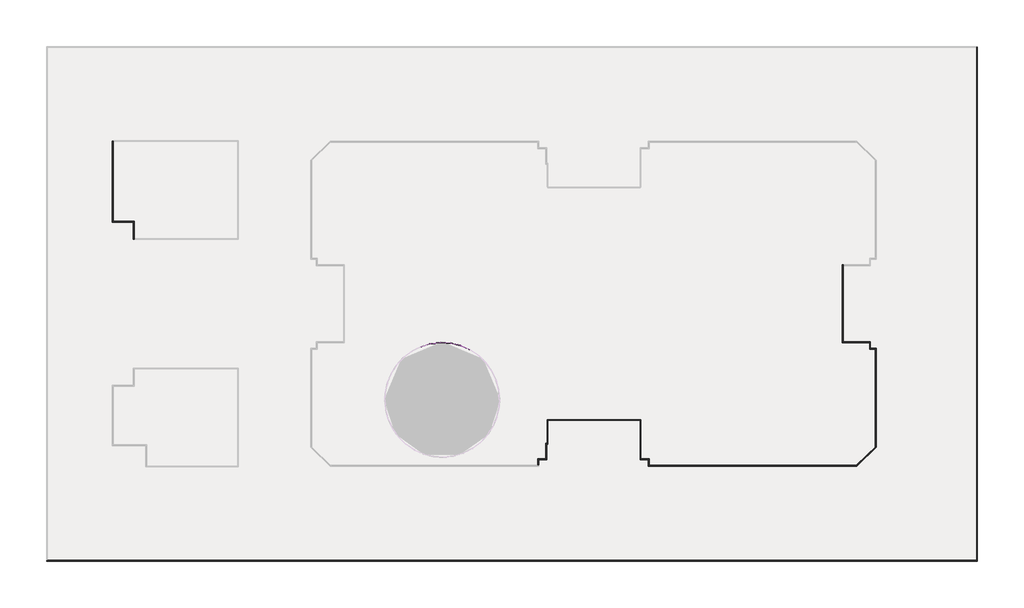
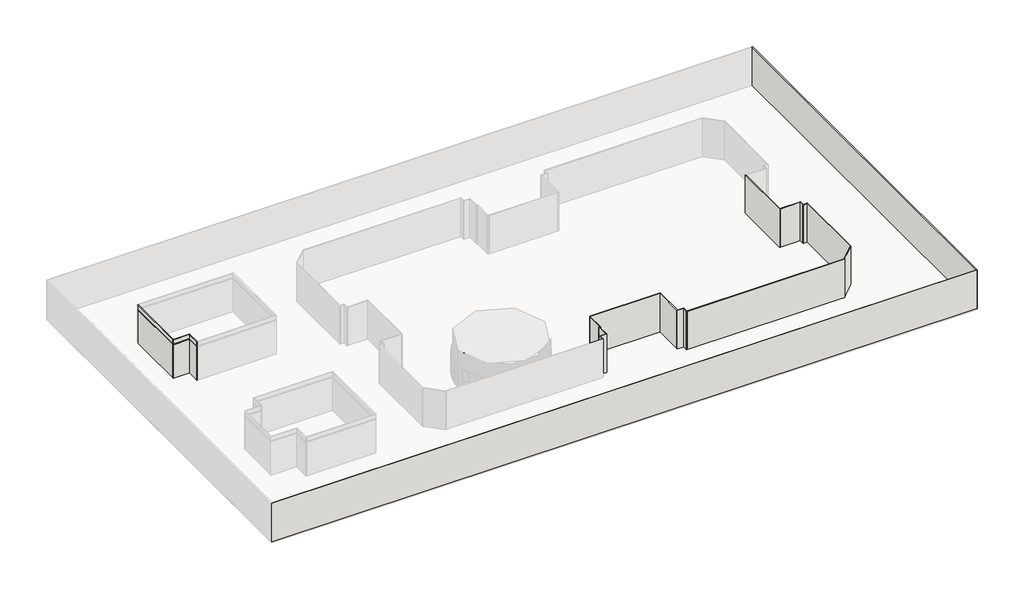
# One storey, part 3 of 4: 23 walls, 12 members, 10 plates.
"""IFC4 building model written with IfcOpenShell, lengths in millimetres."""

from ifc_helpers import new_model, si_unit, frame, origin, place, context, project, spatial, polyline, circle_curve, faceted_brep, transform, mapped, element, save
from ifc_brep_helpers import plane_surface, cylinder_surface, revolved_surface, advanced_brep
from components import member_37831322, member_0f460398, plate_01dbb522, plate_f02ba564

model = new_model("IFC4")

# Units and contexts
model_context = context("Model", 3, world=origin())
ifc_project = project(units=[si_unit("LENGTHUNIT", "METRE", prefix="MILLI")], contexts=[model_context])

# Site, building, storey
site = spatial("IfcSite", under=ifc_project)
building = spatial("IfcBuilding", under=site)
storey = spatial("IfcBuildingStorey", under=building, Name="樓層 1", Elevation=0.0)

# Members
placement = place(None, origin())
member_shape = member_37831322(model_context)
element("IfcMember", 1, ObjectType="圓形豎框 : 25mm 半徑", at=placement, inside=storey, context=model_context, shape_type="MappedRepresentation", body=[
    mapped(member_shape, transform((-8432.6527609, -7456.1153713, 2800.0), x_axis=(-0.9467588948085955, 0.3219434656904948, 0.0), y_axis=(0.3219434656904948, 0.9467588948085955, 0.0), z_axis=(0.0, 0.0, -1.0))),
])
element("IfcMember", 2, ObjectType="圓形豎框 : 25mm 半徑", at=placement, inside=storey, context=model_context, shape_type="MappedRepresentation", body=[
    mapped(member_shape, transform((-10181.4903396, -7030.0084326, 2800.0), x_axis=(-0.9887399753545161, 0.14964378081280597, 0.0), y_axis=(0.14964378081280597, 0.9887399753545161, 0.0), z_axis=(0.0, 0.0, -1.0))),
])
element("IfcMember", 3, ObjectType="圓形豎框 : 25mm 半徑", at=placement, inside=storey, context=model_context, shape_type="MappedRepresentation", body=[
    mapped(member_shape, transform((-11978.0960977, -6919.5197457, 2800.0), x_axis=(-0.9996255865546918, -0.02736213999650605, 0.0), y_axis=(-0.02736213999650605, 0.9996255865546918, 0.0), z_axis=(0.0, 0.0, -1.0))),
])
element("IfcMember", 4, ObjectType="圓形豎框 : 25mm 半徑", at=placement, inside=storey, context=model_context, shape_type="MappedRepresentation", body=[
    mapped(member_shape, transform((-13765.9675162, -7128.1241348, 2800.0), x_axis=(-0.9790733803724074, -0.20350753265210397, 0.0), y_axis=(-0.20350753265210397, 0.9790733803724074, 0.0), z_axis=(0.0, 0.0, -1.0))),
])
member_2_shape = member_0f460398(model_context)
element("IfcMember", 5, ObjectType="圓形豎框 : 25mm 半徑", at=placement, inside=storey, context=model_context, shape_type="MappedRepresentation", body=[
    mapped(member_2_shape, transform((-8409.7906891, -7466.2309866, 2800.0), x_axis=(0.0, 0.0, 1.0), y_axis=(0.40462461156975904, 0.9144828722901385, 0.0), z_axis=(-0.9144828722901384, 0.404624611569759, 0.0))),
])
element("IfcMember", 6, ObjectType="圓形豎框 : 25mm 半徑", at=placement, inside=storey, context=model_context, shape_type="MappedRepresentation", body=[
    mapped(member_2_shape, transform((-10157.2009288, -7035.9265845, 2800.0), x_axis=(0.0, 0.0, 1.0), y_axis=(0.2367260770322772, 0.9715764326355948, 0.0), z_axis=(-0.9715764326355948, 0.2367260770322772, 0.0))),
])
element("IfcMember", 7, ObjectType="圓形豎框 : 25mm 半徑", at=placement, inside=storey, context=model_context, shape_type="MappedRepresentation", body=[
    mapped(member_2_shape, transform((-11953.14324, -6921.0543108, 2800.0), x_axis=(0.0, 0.0, 1.0), y_axis=(0.06138260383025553, 0.9981143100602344, 0.0), z_axis=(-0.9981143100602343, 0.061382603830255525, 0.0))),
])
element("IfcMember", 8, ObjectType="圓形豎框 : 25mm 半徑", at=placement, inside=storey, context=model_context, shape_type="MappedRepresentation", body=[
    mapped(member_2_shape, transform((-13741.1359687, -7125.2268516, 2800.0), x_axis=(0.0, 0.0, 1.0), y_axis=(-0.11589132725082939, 0.9932618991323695, 0.0), z_axis=(-0.9932618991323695, -0.11589132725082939, 0.0))),
])
element("IfcMember", 9, ObjectType="圓形豎框 : 25mm 半徑", at=placement, inside=storey, context=model_context, shape_type="MappedRepresentation", body=[
    mapped(member_shape, transform((-8432.6527609, -7456.1153713, 0.0), x_axis=(-0.9467588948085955, 0.3219434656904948, 0.0), y_axis=(0.3219434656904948, 0.9467588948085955, 0.0), z_axis=(0.0, 0.0, -1.0))),
])
element("IfcMember", 10, ObjectType="圓形豎框 : 25mm 半徑", at=placement, inside=storey, context=model_context, shape_type="MappedRepresentation", body=[
    mapped(member_shape, transform((-10181.4903396, -7030.0084326, 0.0), x_axis=(-0.9887399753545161, 0.14964378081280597, 0.0), y_axis=(0.14964378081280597, 0.9887399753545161, 0.0), z_axis=(0.0, 0.0, -1.0))),
])
element("IfcMember", 11, ObjectType="圓形豎框 : 25mm 半徑", at=placement, inside=storey, context=model_context, shape_type="MappedRepresentation", body=[
    mapped(member_shape, transform((-11978.0960977, -6919.5197457, 0.0), x_axis=(-0.9996255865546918, -0.02736213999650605, 0.0), y_axis=(-0.02736213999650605, 0.9996255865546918, 0.0), z_axis=(0.0, 0.0, -1.0))),
])
element("IfcMember", 12, ObjectType="圓形豎框 : 25mm 半徑", at=placement, inside=storey, context=model_context, shape_type="MappedRepresentation", body=[
    mapped(member_shape, transform((-13765.9675162, -7128.1241348, 0.0), x_axis=(-0.9790733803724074, -0.20350753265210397, 0.0), y_axis=(-0.20350753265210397, 0.9790733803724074, 0.0), z_axis=(0.0, 0.0, -1.0))),
])

# Plates
plate_shape = plate_01dbb522(model_context)
element("IfcPlate", 13, ObjectType="系統嵌板 : 玻璃 1.0cm", at=placement, inside=storey, context=model_context, shape_type="MappedRepresentation", body=[
    mapped(plate_shape, transform((-7609.6181758, -7820.2775217, 0.0), x_axis=(-0.9144828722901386, 0.4046246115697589, 0.0), y_axis=(-0.4046246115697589, -0.9144828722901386, 0.0), z_axis=(0.0, 0.0, 1.0))),
])
element("IfcPlate", 14, ObjectType="系統嵌板 : 玻璃 1.0cm", at=placement, inside=storey, context=model_context, shape_type="MappedRepresentation", body=[
    mapped(plate_shape, transform((-9307.0715503, -7243.0619019, 0.0), x_axis=(-0.9715764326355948, 0.23672607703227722, 0.0), y_axis=(-0.23672607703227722, -0.9715764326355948, 0.0), z_axis=(0.0, 0.0, 1.0))),
])
element("IfcPlate", 15, ObjectType="系統嵌板 : 玻璃 1.0cm", at=placement, inside=storey, context=model_context, shape_type="MappedRepresentation", body=[
    mapped(plate_shape, transform((-11079.7932187, -6974.7640892, 0.0), x_axis=(-0.9981143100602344, 0.061382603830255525, 0.0), y_axis=(-0.061382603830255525, -0.9981143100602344, 0.0), z_axis=(0.0, 0.0, 1.0))),
])
element("IfcPlate", 16, ObjectType="系統嵌板 : 玻璃 1.0cm", at=placement, inside=storey, context=model_context, shape_type="MappedRepresentation", body=[
    mapped(plate_shape, transform((-12872.031807, -7023.8219402, 0.0), x_axis=(-0.9932618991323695, -0.11589132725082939, 0.0), y_axis=(0.11589132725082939, -0.9932618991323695, 0.0), z_axis=(0.0, 0.0, 1.0))),
])
element("IfcPlate", 17, ObjectType="系統嵌板 : 玻璃 1.0cm", at=placement, inside=storey, context=model_context, shape_type="MappedRepresentation", body=[
    mapped(plate_shape, transform((-14627.4221417, -7388.6926057, 0.0), x_axis=(-0.9571718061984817, -0.2895205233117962, 0.0), y_axis=(0.2895205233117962, -0.9571718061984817, 0.0), z_axis=(0.0, 0.0, 1.0))),
])
plate_2_shape = plate_f02ba564(model_context)
element("IfcPlate", 18, ObjectType="系統嵌板 : 玻璃 1.0cm", at=placement, inside=storey, context=model_context, shape_type="MappedRepresentation", body=[
    mapped(plate_2_shape, transform((-7609.6181758, -7820.2775217, 2825.0), x_axis=(-0.9144828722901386, 0.4046246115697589, 0.0), y_axis=(-0.4046246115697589, -0.9144828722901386, 0.0), z_axis=(0.0, 0.0, 1.0))),
])
element("IfcPlate", 19, ObjectType="系統嵌板 : 玻璃 1.0cm", at=placement, inside=storey, context=model_context, shape_type="MappedRepresentation", body=[
    mapped(plate_2_shape, transform((-9307.0715503, -7243.0619019, 2825.0), x_axis=(-0.9715764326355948, 0.23672607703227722, 0.0), y_axis=(-0.23672607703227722, -0.9715764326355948, 0.0), z_axis=(0.0, 0.0, 1.0))),
])
element("IfcPlate", 20, ObjectType="系統嵌板 : 玻璃 1.0cm", at=placement, inside=storey, context=model_context, shape_type="MappedRepresentation", body=[
    mapped(plate_2_shape, transform((-11079.7932187, -6974.7640892, 2825.0), x_axis=(-0.9981143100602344, 0.061382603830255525, 0.0), y_axis=(-0.061382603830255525, -0.9981143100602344, 0.0), z_axis=(0.0, 0.0, 1.0))),
])
element("IfcPlate", 21, ObjectType="系統嵌板 : 玻璃 1.0cm", at=placement, inside=storey, context=model_context, shape_type="MappedRepresentation", body=[
    mapped(plate_2_shape, transform((-12872.031807, -7023.8219402, 2825.0), x_axis=(-0.9932618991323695, -0.11589132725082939, 0.0), y_axis=(0.11589132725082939, -0.9932618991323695, 0.0), z_axis=(0.0, 0.0, 1.0))),
])
element("IfcPlate", 22, ObjectType="系統嵌板 : 玻璃 1.0cm", at=placement, inside=storey, context=model_context, shape_type="MappedRepresentation", body=[
    mapped(plate_2_shape, transform((-14627.4221417, -7388.6926057, 2825.0), x_axis=(-0.9571718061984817, -0.2895205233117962, 0.0), y_axis=(0.2895205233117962, -0.9571718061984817, 0.0), z_axis=(0.0, 0.0, 1.0))),
])

# Walls
element("IfcWall", 23, ObjectType="RC 牆 15cm", at=placement, inside=storey, context=model_context, shape_type="Brep", body=[
    faceted_brep([(82913.7769574, 45327.9067124, 0.0), (82913.7769574, -45467.0932876, 0.0), (82913.7769574, -45617.0932876, 0.0), (82913.7769574, -45617.0932876, 9500.0), (82913.7769574, -45467.0932876, 9500.0), (82913.7769574, 45327.9067124, 9500.0), (82913.7769574, 45327.9067124, 8500.0), (82913.7769574, 45327.9067124, 8250.0), (82913.7769574, 45327.9067124, 4500.0), (82913.7769574, 45327.9067124, 4250.0), (83063.7769574, 45327.9067124, 0.0), (83063.7769574, 45327.9067124, 9500.0), (83063.7769574, -45617.0932876, 9500.0), (83063.7769574, -45617.0932876, 0.0)], [[[0, 1, 2, 3, 4, 5, 6, 7, 8, 9]], [[10, 11, 12, 13]], [[2, 1, 0, 10, 13]], [[5, 4, 3, 12, 11]], [[0, 9, 8, 7, 6, 5, 11, 10]], [[3, 2, 13, 12]]]),
])
element("IfcWall", 24, ObjectType="RC 牆 15cm", at=placement, inside=storey, context=model_context, shape_type="Brep", body=[
    faceted_brep([(82913.7769574, -45467.0932876, 0.0), (-81591.2230426, -45467.0932876, 0.0), (-81741.2230426, -45467.0932876, 0.0), (-81741.2230426, -45467.0932876, 9500.0), (-81591.2230426, -45467.0932876, 9500.0), (82913.7769574, -45467.0932876, 9500.0), (82913.7769574, -45467.0932876, 8500.0), (82913.7769574, -45467.0932876, 8250.0), (82913.7769574, -45467.0932876, 4500.0), (82913.7769574, -45467.0932876, 4250.0), (82913.7769574, -45617.0932876, 0.0), (82913.7769574, -45617.0932876, 9500.0), (-81741.2230426, -45617.0932876, 9500.0), (-81741.2230426, -45617.0932876, 0.0)], [[[0, 1, 2, 3, 4, 5, 6, 7, 8, 9]], [[10, 11, 12, 13]], [[2, 1, 0, 10, 13]], [[5, 4, 3, 12, 11]], [[0, 9, 8, 7, 6, 5, 11, 10]], [[3, 2, 13, 12]]]),
])
element("IfcWall", 25, ObjectType="RC 牆 15cm", at=placement, inside=storey, context=model_context, shape_type="Brep", body=[
    faceted_brep([(-70116.2230426, 14379.9067124, 0.0), (-66356.2230426, 14379.9067124, 0.0), (-66206.2230426, 14379.9067124, 0.0), (-66206.2230426, 14379.9067124, 8250.0), (-66356.2230426, 14379.9067124, 8250.0), (-70116.2230426, 14379.9067124, 8250.0), (-70116.2230426, 14379.9067124, 4500.0), (-70116.2230426, 14379.9067124, 4250.0), (-66206.2230426, 14529.9067124, 0.0), (-69966.2230426, 14529.9067124, 0.0), (-70116.2230426, 14529.9067124, 0.0), (-70116.2230426, 14529.9067124, 4250.0), (-70116.2230426, 14529.9067124, 4500.0), (-70116.2230426, 14529.9067124, 8250.0), (-69966.2230426, 14529.9067124, 8250.0), (-66206.2230426, 14529.9067124, 8250.0)], [[[0, 1, 2, 3, 4, 5, 6, 7]], [[8, 9, 10, 11, 12, 13, 14, 15]], [[2, 1, 0, 10, 9, 8]], [[2, 8, 15, 3]], [[10, 0, 7, 6, 5, 13, 12, 11]], [[5, 4, 3, 15, 14, 13]]]),
    faceted_brep([(-66206.2230426, 14379.9067124, 9500.0), (-66356.2230426, 14379.9067124, 9500.0), (-70116.2230426, 14379.9067124, 9500.0), (-70116.2230426, 14379.9067124, 8500.0), (-66356.2230426, 14379.9067124, 8500.0), (-66206.2230426, 14379.9067124, 8500.0), (-70116.2230426, 14529.9067124, 9500.0), (-69966.2230426, 14529.9067124, 9500.0), (-66206.2230426, 14529.9067124, 9500.0), (-66206.2230426, 14529.9067124, 8500.0), (-69966.2230426, 14529.9067124, 8500.0), (-70116.2230426, 14529.9067124, 8500.0)], [[[0, 1, 2, 3, 4, 5]], [[6, 7, 8, 9, 10, 11]], [[2, 1, 0, 8, 7, 6]], [[8, 0, 5, 9]], [[2, 6, 11, 3]], [[5, 4, 3, 11, 10, 9]]]),
])
element("IfcWall", 26, ObjectType="RC 牆 15cm", at=placement, inside=storey, context=model_context, shape_type="Brep", body=[
    faceted_brep([(-66356.2230426, 14379.9067124, 0.0), (-66356.2230426, 11337.3962872, 0.0), (-66356.2230426, 11337.3962872, 4250.0), (-66356.2230426, 11337.3962872, 4500.0), (-66356.2230426, 11337.3962872, 8250.0), (-66356.2230426, 14379.9067124, 8250.0), (-66356.2230426, 14379.9067124, 4500.0), (-66356.2230426, 14379.9067124, 4250.0), (-66206.2230426, 11337.3962872, 0.0), (-66206.2230426, 11487.3962872, 0.0), (-66206.2230426, 14379.9067124, 0.0), (-66206.2230426, 14379.9067124, 8250.0), (-66206.2230426, 11487.3962872, 8250.0), (-66206.2230426, 11337.3962872, 8250.0), (-66206.2230426, 11337.3962872, 4500.0), (-66206.2230426, 11337.3962872, 4250.0)], [[[0, 1, 2, 3, 4, 5, 6, 7]], [[8, 9, 10, 11, 12, 13, 14, 15]], [[1, 0, 10, 9, 8]], [[10, 0, 7, 6, 5, 11]], [[1, 8, 15, 14, 13, 4, 3, 2]], [[5, 4, 13, 12, 11]]]),
    faceted_brep([(-66356.2230426, 11337.3962872, 9500.0), (-66356.2230426, 14379.9067124, 9500.0), (-66356.2230426, 14379.9067124, 8500.0), (-66356.2230426, 11337.3962872, 8500.0), (-66206.2230426, 14379.9067124, 9500.0), (-66206.2230426, 11487.3962872, 9500.0), (-66206.2230426, 11337.3962872, 9500.0), (-66206.2230426, 11337.3962872, 8500.0), (-66206.2230426, 11487.3962872, 8500.0), (-66206.2230426, 14379.9067124, 8500.0)], [[[0, 1, 2, 3]], [[4, 5, 6, 7, 8, 9]], [[1, 0, 6, 5, 4]], [[1, 4, 9, 2]], [[6, 0, 3, 7]], [[3, 2, 9, 8, 7]]]),
])
element("IfcWall", 27, ObjectType="RC 牆 15cm", at=placement, inside=storey, context=model_context, shape_type="Brep", body=[
    faceted_brep([(-70116.2230426, 28677.9067124, 0.0), (-70116.2230426, 14529.9067124, 0.0), (-70116.2230426, 14529.9067124, 4250.0), (-70116.2230426, 14529.9067124, 4500.0), (-70116.2230426, 14529.9067124, 8250.0), (-70116.2230426, 28677.9067124, 8250.0), (-70116.2230426, 28677.9067124, 4500.0), (-70116.2230426, 28677.9067124, 4250.0), (-69966.2230426, 14529.9067124, 0.0), (-69966.2230426, 28677.9067124, 0.0), (-69966.2230426, 28677.9067124, 8250.0), (-69966.2230426, 14529.9067124, 8250.0)], [[[0, 1, 2, 3, 4, 5, 6, 7]], [[8, 9, 10, 11]], [[1, 0, 9, 8]], [[1, 8, 11, 4, 3, 2]], [[9, 0, 7, 6, 5, 10]], [[5, 4, 11, 10]]]),
    faceted_brep([(-70116.2230426, 14529.9067124, 9500.0), (-70116.2230426, 28677.9067124, 9500.0), (-70116.2230426, 28677.9067124, 8500.0), (-70116.2230426, 14529.9067124, 8500.0), (-69966.2230426, 28677.9067124, 9500.0), (-69966.2230426, 14529.9067124, 9500.0), (-69966.2230426, 14529.9067124, 8500.0), (-69966.2230426, 28677.9067124, 8500.0)], [[[0, 1, 2, 3]], [[4, 5, 6, 7]], [[1, 0, 5, 4]], [[5, 0, 3, 6]], [[1, 4, 7, 2]], [[3, 2, 7, 6]]]),
])
element("IfcWall", 28, ObjectType="RC 牆 15cm", at=placement, inside=storey, context=model_context, shape_type="Brep", body=[
    faceted_brep([(5373.7769574, -28687.0932876, 0.0), (5373.7769574, -27684.5932876, 0.0), (5373.7769574, -27534.5932876, 0.0), (5373.7769574, -27534.5932876, 9500.0), (5373.7769574, -27684.5932876, 9500.0), (5373.7769574, -28687.0932876, 9500.0), (5373.7769574, -28687.0932876, 8500.0), (5373.7769574, -28687.0932876, 8250.0), (5373.7769574, -28687.0932876, 4500.0), (5373.7769574, -28687.0932876, 4250.0), (5223.7769574, -27534.5932876, 0.0), (5223.7769574, -28687.0932876, 0.0), (5223.7769574, -28687.0932876, 9500.0), (5223.7769574, -27534.5932876, 9500.0)], [[[0, 1, 2, 3, 4, 5, 6, 7, 8, 9]], [[10, 11, 12, 13]], [[2, 1, 0, 11, 10]], [[5, 4, 3, 13, 12]], [[5, 12, 11, 0, 9, 8, 7, 6]], [[3, 2, 10, 13]]]),
])
element("IfcWall", 29, ObjectType="RC 牆 15cm", at=placement, inside=storey, context=model_context, shape_type="Brep", body=[
    faceted_brep([(5373.7769574, -27684.5932876, 0.0), (6813.7769574, -27684.5932876, 0.0), (6813.7769574, -27684.5932876, 4250.0), (6813.7769574, -27684.5932876, 4500.0), (6813.7769574, -27684.5932876, 8250.0), (6813.7769574, -27684.5932876, 8500.0), (6813.7769574, -27684.5932876, 9500.0), (5373.7769574, -27684.5932876, 9500.0), (5373.7769574, -27684.5932876, 8500.0), (5373.7769574, -27684.5932876, 8250.0), (5373.7769574, -27684.5932876, 4500.0), (5373.7769574, -27684.5932876, 4250.0), (6813.7769574, -27534.5932876, 0.0), (6663.7769574, -27534.5932876, 0.0), (5373.7769574, -27534.5932876, 0.0), (5373.7769574, -27534.5932876, 9500.0), (6663.7769574, -27534.5932876, 9500.0), (6813.7769574, -27534.5932876, 9500.0), (6813.7769574, -27534.5932876, 8500.0), (6813.7769574, -27534.5932876, 8250.0), (6813.7769574, -27534.5932876, 4500.0), (6813.7769574, -27534.5932876, 4250.0)], [[[0, 1, 2, 3, 4, 5, 6, 7, 8, 9, 10, 11]], [[12, 13, 14, 15, 16, 17, 18, 19, 20, 21]], [[1, 0, 14, 13, 12]], [[7, 6, 17, 16, 15]], [[7, 15, 14, 0, 11, 10, 9, 8]], [[1, 12, 21, 20, 19, 18, 17, 6, 5, 4, 3, 2]]]),
])
element("IfcWall", 30, ObjectType="RC 牆 15cm", at=placement, inside=storey, context=model_context, shape_type="Brep", body=[
    faceted_brep([(7013.7769574, -24782.0932876, 0.0), (7013.7769574, -20752.0932876, 0.0), (7013.7769574, -20752.0932876, 4250.0), (7013.7769574, -20752.0932876, 4500.0), (7013.7769574, -20752.0932876, 8250.0), (7013.7769574, -20752.0932876, 8500.0), (7013.7769574, -20752.0932876, 9500.0), (7013.7769574, -24782.0932876, 9500.0), (7013.7769574, -24782.0932876, 8500.0), (7013.7769574, -24782.0932876, 8250.0), (7013.7769574, -24782.0932876, 4500.0), (7013.7769574, -24782.0932876, 4250.0), (6863.7769574, -20752.0932876, 0.0), (6863.7769574, -24782.0932876, 0.0), (6863.7769574, -24782.0932876, 9500.0), (6863.7769574, -20752.0932876, 9500.0)], [[[0, 1, 2, 3, 4, 5, 6, 7, 8, 9, 10, 11]], [[12, 13, 14, 15]], [[1, 0, 13, 12]], [[12, 15, 6, 5, 4, 3, 2, 1]], [[7, 6, 15, 14]], [[7, 14, 13, 0, 11, 10, 9, 8]]]),
])
element("IfcWall", 31, ObjectType="RC 牆 15cm", at=placement, inside=storey, context=model_context, shape_type="Brep", body=[
    faceted_brep([(7063.7769574, -20702.0932876, 0.0), (23283.7769574, -20702.0932876, 0.0), (23283.7769574, -20702.0932876, 4250.0), (23283.7769574, -20702.0932876, 4500.0), (23283.7769574, -20702.0932876, 8250.0), (23283.7769574, -20702.0932876, 8500.0), (23283.7769574, -20702.0932876, 9500.0), (7063.7769574, -20702.0932876, 9500.0), (7063.7769574, -20702.0932876, 8500.0), (7063.7769574, -20702.0932876, 8250.0), (7063.7769574, -20702.0932876, 4500.0), (7063.7769574, -20702.0932876, 4250.0), (23283.7769574, -20552.0932876, 0.0), (7063.7769574, -20552.0932876, 0.0), (7063.7769574, -20552.0932876, 9500.0), (23283.7769574, -20552.0932876, 9500.0)], [[[0, 1, 2, 3, 4, 5, 6, 7, 8, 9, 10, 11]], [[12, 13, 14, 15]], [[1, 0, 13, 12]], [[12, 15, 6, 5, 4, 3, 2, 1]], [[7, 6, 15, 14]], [[14, 13, 0, 11, 10, 9, 8, 7]]]),
])
element("IfcWall", 32, ObjectType="RC 牆 15cm", at=placement, inside=storey, context=model_context, shape_type="AdvancedBrep", body=[
    advanced_brep(
    [(7063.7769574, -20552.0932876, 9500.0), (6863.7769574, -20752.0932876, 9500.0), (7013.7769574, -20752.0932876, 9500.0), (7063.7769574, -20702.0932876, 9500.0), (6863.7769574, -20752.0932876, 0.0), (7063.7769574, -20552.0932876, 0.0), (7063.7769574, -20702.0932876, 0.0), (7013.7769574, -20752.0932876, 0.0), (7013.7769574, -20752.0932876, 4250.0), (7013.7769574, -20752.0932876, 4500.0), (7013.7769574, -20752.0932876, 8250.0), (7013.7769574, -20752.0932876, 8500.0), (7063.7769574, -20702.0932876, 4250.0), (7063.7769574, -20702.0932876, 4500.0), (7063.7769574, -20702.0932876, 8250.0), (7063.7769574, -20702.0932876, 8500.0)],
    [
        (0, 1, circle_curve(frame((7063.7769574, -20752.0932876, 9500.0), z_axis=(0.0, 0.0, 1.0), x_axis=(1.0, 0.0, 0.0)), 200.0)),
        (1, 2),
        (2, 3, circle_curve(frame((7063.7769574, -20752.0932876, 9500.0), z_axis=(0.0, 0.0, -1.0), x_axis=(1.0, 0.0, 0.0)), 50.0)),
        (3, 0),
        (4, 5, circle_curve(frame((7063.7769574, -20752.0932876, 0.0), z_axis=(0.0, 0.0, -1.0), x_axis=(1.0, 0.0, 0.0)), 200.0)),
        (5, 6),
        (6, 7, circle_curve(frame((7063.7769574, -20752.0932876, 0.0), z_axis=(0.0, 0.0, 1.0), x_axis=(1.0, 0.0, 0.0)), 50.0)),
        (7, 4),
        (0, 5),
        (4, 1),
        (7, 8),
        (8, 9),
        (9, 10),
        (10, 11),
        (11, 2),
        (6, 12),
        (12, 13),
        (13, 14),
        (14, 15),
        (15, 3),
    ],
    [
        plane_surface(frame((7263.7769574, -20752.0932876, 9500.0), z_axis=(0.0, 0.0, 1.0), x_axis=(0.0, 1.0, 0.0))),
        plane_surface(frame((7263.7769574, -20752.0932876, 0.0), z_axis=(0.0, 0.0, -1.0), x_axis=(0.0, -1.0, 0.0))),
        cylinder_surface(frame((7063.7769574, -20752.0932876, 0.0), z_axis=(0.0, 0.0, 1.0), x_axis=(1.0, 0.0, 0.0)), 200.0),
        plane_surface(frame((6863.7769574, -20752.0932876, 9500.0), z_axis=(0.0, -1.0, 0.0), x_axis=(0.0, 0.0, -1.0))),
        revolved_surface(polyline([(7113.7769574, -20752.0932876, 0.0), (7113.7769574, -20752.0932876, 9500.0)]), (7063.7769574, -20752.0932876, 0.0), (0.0, 0.0, -1.0)),
        plane_surface(frame((7063.7769574, -20702.0932876, 9500.0), z_axis=(1.0, 0.0, 0.0), x_axis=(0.0, 0.0, -1.0))),
    ],
    [
        (0, [[1, 2, 3, 4]]),
        (1, [[5, 6, 7, 8]]),
        (2, [[-1, 9, -5, 10]]),
        (3, [[-2, -10, -8, 11, 12, 13, 14, 15]]),
        (4, [[-3, -15, -14, -13, -12, -11, -7, 16, 17, 18, 19, 20]]),
        (5, [[-4, -20, -19, -18, -17, -16, -6, -9]]),
    ],
),
])
element("IfcWall", 33, ObjectType="RC 牆 15cm", at=placement, inside=storey, context=model_context, shape_type="AdvancedBrep", body=[
    advanced_brep(
    [(23483.7769574, -20752.0932876, 9500.0), (23283.7769574, -20552.0932876, 9500.0), (23283.7769574, -20702.0932876, 9500.0), (23333.7769574, -20752.0932876, 9500.0), (23283.7769574, -20552.0932876, 0.0), (23483.7769574, -20752.0932876, 0.0), (23333.7769574, -20752.0932876, 0.0), (23283.7769574, -20702.0932876, 0.0), (23283.7769574, -20702.0932876, 4250.0), (23283.7769574, -20702.0932876, 4500.0), (23283.7769574, -20702.0932876, 8250.0), (23283.7769574, -20702.0932876, 8500.0), (23333.7769574, -20752.0932876, 4250.0), (23333.7769574, -20752.0932876, 4500.0), (23333.7769574, -20752.0932876, 8250.0), (23333.7769574, -20752.0932876, 8500.0)],
    [
        (0, 1, circle_curve(frame((23283.7769574, -20752.0932876, 9500.0), z_axis=(0.0, 0.0, 1.0), x_axis=(1.0, 0.0, 0.0)), 200.0)),
        (1, 2),
        (2, 3, circle_curve(frame((23283.7769574, -20752.0932876, 9500.0), z_axis=(0.0, 0.0, -1.0), x_axis=(1.0, 0.0, 0.0)), 50.0)),
        (3, 0),
        (4, 5, circle_curve(frame((23283.7769574, -20752.0932876, 0.0), z_axis=(0.0, 0.0, -1.0), x_axis=(1.0, 0.0, 0.0)), 200.0)),
        (5, 6),
        (6, 7, circle_curve(frame((23283.7769574, -20752.0932876, 0.0), z_axis=(0.0, 0.0, 1.0), x_axis=(1.0, 0.0, 0.0)), 50.0)),
        (7, 4),
        (0, 5),
        (4, 1),
        (7, 8),
        (8, 9),
        (9, 10),
        (10, 11),
        (11, 2),
        (6, 12),
        (12, 13),
        (13, 14),
        (14, 15),
        (15, 3),
    ],
    [
        plane_surface(frame((23483.7769574, -20752.0932876, 9500.0), z_axis=(0.0, 0.0, 1.0), x_axis=(0.0, 1.0, 0.0))),
        plane_surface(frame((23483.7769574, -20752.0932876, 0.0), z_axis=(0.0, 0.0, -1.0), x_axis=(0.0, -1.0, 0.0))),
        cylinder_surface(frame((23283.7769574, -20752.0932876, 0.0), z_axis=(0.0, 0.0, 1.0), x_axis=(1.0, 0.0, 0.0)), 200.0),
        plane_surface(frame((23283.7769574, -20552.0932876, 9500.0), z_axis=(-1.0, 0.0, 0.0), x_axis=(0.0, 0.0, -1.0))),
        revolved_surface(polyline([(23333.7769574, -20752.0932876, 0.0), (23333.7769574, -20752.0932876, 9500.0)]), (23283.7769574, -20752.0932876, 0.0), (0.0, 0.0, -1.0)),
        plane_surface(frame((23333.7769574, -20752.0932876, 9500.0), z_axis=(0.0, -1.0, 0.0), x_axis=(0.0, 0.0, -1.0))),
    ],
    [
        (0, [[1, 2, 3, 4]]),
        (1, [[5, 6, 7, 8]]),
        (2, [[-1, 9, -5, 10]]),
        (3, [[-2, -10, -8, 11, 12, 13, 14, 15]]),
        (4, [[-3, -15, -14, -13, -12, -11, -7, 16, 17, 18, 19, 20]]),
        (5, [[-4, -20, -19, -18, -17, -16, -6, -9]]),
    ],
),
])
element("IfcWall", 34, ObjectType="RC 牆 15cm", at=placement, inside=storey, context=model_context, shape_type="Brep", body=[
    faceted_brep([(23333.7769574, -20752.0932876, 0.0), (23333.7769574, -27534.5932876, 0.0), (23333.7769574, -27534.5932876, 4250.0), (23333.7769574, -27534.5932876, 4500.0), (23333.7769574, -27534.5932876, 8250.0), (23333.7769574, -27534.5932876, 8500.0), (23333.7769574, -27534.5932876, 9500.0), (23333.7769574, -20752.0932876, 9500.0), (23333.7769574, -20752.0932876, 8500.0), (23333.7769574, -20752.0932876, 8250.0), (23333.7769574, -20752.0932876, 4500.0), (23333.7769574, -20752.0932876, 4250.0), (23483.7769574, -27534.5932876, 0.0), (23483.7769574, -20752.0932876, 0.0), (23483.7769574, -20752.0932876, 9500.0), (23483.7769574, -27534.5932876, 9500.0)], [[[0, 1, 2, 3, 4, 5, 6, 7, 8, 9, 10, 11]], [[12, 13, 14, 15]], [[1, 0, 13, 12]], [[7, 6, 15, 14]], [[14, 13, 0, 11, 10, 9, 8, 7]], [[1, 12, 15, 6, 5, 4, 3, 2]]]),
])
element("IfcWall", 35, ObjectType="RC 牆 15cm", at=placement, inside=storey, context=model_context, shape_type="Brep", body=[
    faceted_brep([(23333.7769574, -27684.5932876, 0.0), (24773.7769574, -27684.5932876, 0.0), (24923.7769574, -27684.5932876, 0.0), (24923.7769574, -27684.5932876, 9500.0), (24773.7769574, -27684.5932876, 9500.0), (23333.7769574, -27684.5932876, 9500.0), (23333.7769574, -27684.5932876, 8500.0), (23333.7769574, -27684.5932876, 8250.0), (23333.7769574, -27684.5932876, 4500.0), (23333.7769574, -27684.5932876, 4250.0), (24923.7769574, -27534.5932876, 0.0), (23483.7769574, -27534.5932876, 0.0), (23333.7769574, -27534.5932876, 0.0), (23333.7769574, -27534.5932876, 4250.0), (23333.7769574, -27534.5932876, 4500.0), (23333.7769574, -27534.5932876, 8250.0), (23333.7769574, -27534.5932876, 8500.0), (23333.7769574, -27534.5932876, 9500.0), (23483.7769574, -27534.5932876, 9500.0), (24923.7769574, -27534.5932876, 9500.0)], [[[0, 1, 2, 3, 4, 5, 6, 7, 8, 9]], [[10, 11, 12, 13, 14, 15, 16, 17, 18, 19]], [[2, 1, 0, 12, 11, 10]], [[5, 4, 3, 19, 18, 17]], [[3, 2, 10, 19]], [[5, 17, 16, 15, 14, 13, 12, 0, 9, 8, 7, 6]]]),
])
element("IfcWall", 36, ObjectType="RC 牆 15cm", at=placement, inside=storey, context=model_context, shape_type="Brep", body=[
    faceted_brep([(24773.7769574, -27684.5932876, 0.0), (24773.7769574, -28837.0932876, 0.0), (24773.7769574, -28837.0932876, 4250.0), (24773.7769574, -28837.0932876, 4500.0), (24773.7769574, -28837.0932876, 8250.0), (24773.7769574, -28837.0932876, 8500.0), (24773.7769574, -28837.0932876, 9500.0), (24773.7769574, -27684.5932876, 9500.0), (24773.7769574, -27684.5932876, 8500.0), (24773.7769574, -27684.5932876, 8250.0), (24773.7769574, -27684.5932876, 4500.0), (24773.7769574, -27684.5932876, 4250.0), (24923.7769574, -28837.0932876, 0.0), (24923.7769574, -28687.0932876, 0.0), (24923.7769574, -27684.5932876, 0.0), (24923.7769574, -27684.5932876, 9500.0), (24923.7769574, -28687.0932876, 9500.0), (24923.7769574, -28837.0932876, 9500.0), (24923.7769574, -28837.0932876, 8500.0), (24923.7769574, -28837.0932876, 8250.0), (24923.7769574, -28837.0932876, 4500.0), (24923.7769574, -28837.0932876, 4250.0)], [[[0, 1, 2, 3, 4, 5, 6, 7, 8, 9, 10, 11]], [[12, 13, 14, 15, 16, 17, 18, 19, 20, 21]], [[1, 0, 14, 13, 12]], [[7, 6, 17, 16, 15]], [[7, 15, 14, 0, 11, 10, 9, 8]], [[1, 12, 21, 20, 19, 18, 17, 6, 5, 4, 3, 2]]]),
])
element("IfcWall", 37, ObjectType="RC 牆 15cm", at=placement, inside=storey, context=model_context, shape_type="Brep", body=[
    faceted_brep([(24923.7769574, -28837.0932876, 0.0), (61705.1068576, -28837.0932876, 0.0), (61705.1068576, -28837.0932876, 4250.0), (61705.1068576, -28837.0932876, 4500.0), (61705.1068576, -28837.0932876, 8250.0), (61705.1068576, -28837.0932876, 8500.0), (61705.1068576, -28837.0932876, 9500.0), (24923.7769574, -28837.0932876, 9500.0), (24923.7769574, -28837.0932876, 8500.0), (24923.7769574, -28837.0932876, 8250.0), (24923.7769574, -28837.0932876, 4500.0), (24923.7769574, -28837.0932876, 4250.0), (61857.8760884, -28687.0932876, 0.0), (61643.7769574, -28687.0932876, 0.0), (24923.7769574, -28687.0932876, 0.0), (24923.7769574, -28687.0932876, 9500.0), (61643.7769574, -28687.0932876, 9500.0), (61857.8760884, -28687.0932876, 9500.0), (61857.8760884, -28687.0932876, 8500.0), (61857.8760884, -28687.0932876, 8250.0), (61857.8760884, -28687.0932876, 4500.0), (61857.8760884, -28687.0932876, 4250.0)], [[[0, 1, 2, 3, 4, 5, 6, 7, 8, 9, 10, 11]], [[12, 13, 14, 15, 16, 17, 18, 19, 20, 21]], [[1, 0, 14, 13, 12]], [[7, 6, 17, 16, 15]], [[7, 15, 14, 0, 11, 10, 9, 8]], [[1, 12, 21, 20, 19, 18, 17, 6, 5, 4, 3, 2]]]),
])
element("IfcWall", 38, ObjectType="RC 牆 15cm", at=placement, inside=storey, context=model_context, shape_type="Brep", body=[
    faceted_brep([(61857.8760884, -28687.0932876, 0.0), (65103.7769574, -25500.0305008, 0.0), (65103.7769574, -25500.0305008, 4250.0), (65103.7769574, -25500.0305008, 4500.0), (65103.7769574, -25500.0305008, 8250.0), (65103.7769574, -25500.0305008, 8500.0), (65103.7769574, -25500.0305008, 9500.0), (61857.8760884, -28687.0932876, 9500.0), (61857.8760884, -28687.0932876, 8500.0), (61857.8760884, -28687.0932876, 8250.0), (61857.8760884, -28687.0932876, 4500.0), (61857.8760884, -28687.0932876, 4250.0), (65103.7769574, -25289.8123209, 0.0), (64953.7769574, -25437.0932876, 0.0), (61643.7769574, -28687.0932876, 0.0), (61643.7769574, -28687.0932876, 9500.0), (64953.7769574, -25437.0932876, 9500.0), (65103.7769574, -25289.8123209, 9500.0), (65103.7769574, -25289.8123209, 8500.0), (65103.7769574, -25289.8123209, 8250.0), (65103.7769574, -25289.8123209, 4500.0), (65103.7769574, -25289.8123209, 4250.0)], [[[0, 1, 2, 3, 4, 5, 6, 7, 8, 9, 10, 11]], [[12, 13, 14, 15, 16, 17, 18, 19, 20, 21]], [[1, 0, 14, 13, 12]], [[7, 6, 17, 16, 15]], [[7, 15, 14, 0, 11, 10, 9, 8]], [[1, 12, 21, 20, 19, 18, 17, 6, 5, 4, 3, 2]]]),
])
element("IfcWall", 39, ObjectType="RC 牆 15cm", at=placement, inside=storey, context=model_context, shape_type="Brep", body=[
    faceted_brep([(65103.7769574, -25289.8123209, 0.0), (65103.7769574, -7967.0932876, 0.0), (65103.7769574, -7967.0932876, 4250.0), (65103.7769574, -7967.0932876, 4500.0), (65103.7769574, -7967.0932876, 8250.0), (65103.7769574, -7967.0932876, 8500.0), (65103.7769574, -7967.0932876, 9500.0), (65103.7769574, -25289.8123209, 9500.0), (65103.7769574, -25289.8123209, 8500.0), (65103.7769574, -25289.8123209, 8250.0), (65103.7769574, -25289.8123209, 4500.0), (65103.7769574, -25289.8123209, 4250.0), (64953.7769574, -7967.0932876, 0.0), (64953.7769574, -8117.0932876, 0.0), (64953.7769574, -25437.0932876, 0.0), (64953.7769574, -25437.0932876, 9500.0), (64953.7769574, -8117.0932876, 9500.0), (64953.7769574, -7967.0932876, 9500.0), (64953.7769574, -7967.0932876, 8500.0), (64953.7769574, -7967.0932876, 8250.0), (64953.7769574, -7967.0932876, 4500.0), (64953.7769574, -7967.0932876, 4250.0)], [[[0, 1, 2, 3, 4, 5, 6, 7, 8, 9, 10, 11]], [[12, 13, 14, 15, 16, 17, 18, 19, 20, 21]], [[1, 0, 14, 13, 12]], [[7, 6, 17, 16, 15]], [[7, 15, 14, 0, 11, 10, 9, 8]], [[1, 12, 21, 20, 19, 18, 17, 6, 5, 4, 3, 2]]]),
])
element("IfcWall", 40, ObjectType="RC 牆 15cm", at=placement, inside=storey, context=model_context, shape_type="Brep", body=[
    faceted_brep([(64953.7769574, -7967.0932876, 0.0), (64123.7769574, -7967.0932876, 0.0), (63973.7769574, -7967.0932876, 0.0), (63973.7769574, -7967.0932876, 9500.0), (64123.7769574, -7967.0932876, 9500.0), (64953.7769574, -7967.0932876, 9500.0), (64953.7769574, -7967.0932876, 8500.0), (64953.7769574, -7967.0932876, 8250.0), (64953.7769574, -7967.0932876, 4500.0), (64953.7769574, -7967.0932876, 4250.0), (63973.7769574, -8117.0932876, 0.0), (64953.7769574, -8117.0932876, 0.0), (64953.7769574, -8117.0932876, 9500.0), (63973.7769574, -8117.0932876, 9500.0)], [[[0, 1, 2, 3, 4, 5, 6, 7, 8, 9]], [[10, 11, 12, 13]], [[2, 1, 0, 11, 10]], [[5, 4, 3, 13, 12]], [[5, 12, 11, 0, 9, 8, 7, 6]], [[3, 2, 10, 13]]]),
])
element("IfcWall", 41, ObjectType="RC 牆 15cm", at=placement, inside=storey, context=model_context, shape_type="Brep", body=[
    faceted_brep([(64123.7769574, -7967.0932876, 0.0), (64123.7769574, -6827.0932876, 0.0), (64123.7769574, -6827.0932876, 4250.0), (64123.7769574, -6827.0932876, 4500.0), (64123.7769574, -6827.0932876, 8250.0), (64123.7769574, -6827.0932876, 8500.0), (64123.7769574, -6827.0932876, 9500.0), (64123.7769574, -7967.0932876, 9500.0), (64123.7769574, -7967.0932876, 8500.0), (64123.7769574, -7967.0932876, 8250.0), (64123.7769574, -7967.0932876, 4500.0), (64123.7769574, -7967.0932876, 4250.0), (63973.7769574, -6827.0932876, 0.0), (63973.7769574, -6977.0932876, 0.0), (63973.7769574, -7967.0932876, 0.0), (63973.7769574, -7967.0932876, 9500.0), (63973.7769574, -6977.0932876, 9500.0), (63973.7769574, -6827.0932876, 9500.0), (63973.7769574, -6827.0932876, 8500.0), (63973.7769574, -6827.0932876, 8250.0), (63973.7769574, -6827.0932876, 4500.0), (63973.7769574, -6827.0932876, 4250.0)], [[[0, 1, 2, 3, 4, 5, 6, 7, 8, 9, 10, 11]], [[12, 13, 14, 15, 16, 17, 18, 19, 20, 21]], [[1, 0, 14, 13, 12]], [[7, 6, 17, 16, 15]], [[7, 15, 14, 0, 11, 10, 9, 8]], [[1, 12, 21, 20, 19, 18, 17, 6, 5, 4, 3, 2]]]),
])
element("IfcWall", 42, ObjectType="RC 牆 15cm", at=placement, inside=storey, context=model_context, shape_type="Brep", body=[
    faceted_brep([(59298.7769574, -6977.0932876, 0.0), (59298.7769574, -6827.0932876, 0.0), (59298.7769574, 6712.9067124, 0.0), (59298.7769574, 6862.9067124, 0.0), (59298.7769574, 6862.9067124, 9500.0), (59298.7769574, 6712.9067124, 9500.0), (59298.7769574, -6827.0932876, 9500.0), (59298.7769574, -6977.0932876, 9500.0), (59148.7769574, 6862.9067124, 0.0), (59148.7769574, -6977.0932876, 0.0), (59148.7769574, -6977.0932876, 9500.0), (59148.7769574, 6862.9067124, 9500.0)], [[[0, 1, 2, 3, 4, 5, 6, 7]], [[8, 9, 10, 11]], [[3, 2, 1, 0, 9, 8]], [[7, 6, 5, 4, 11, 10]], [[4, 3, 8, 11]], [[0, 7, 10, 9]]]),
])
element("IfcWall", 43, ObjectType="RC 牆 15cm", at=placement, inside=storey, context=model_context, shape_type="Brep", body=[
    faceted_brep([(63973.7769574, -6827.0932876, 0.0), (59298.7769574, -6827.0932876, 0.0), (59298.7769574, -6827.0932876, 4250.0), (59298.7769574, -6827.0932876, 4500.0), (59298.7769574, -6827.0932876, 8250.0), (59298.7769574, -6827.0932876, 8500.0), (59298.7769574, -6827.0932876, 9500.0), (63973.7769574, -6827.0932876, 9500.0), (63973.7769574, -6827.0932876, 8500.0), (63973.7769574, -6827.0932876, 8250.0), (63973.7769574, -6827.0932876, 4500.0), (63973.7769574, -6827.0932876, 4250.0), (59298.7769574, -6977.0932876, 0.0), (63973.7769574, -6977.0932876, 0.0), (63973.7769574, -6977.0932876, 9500.0), (59298.7769574, -6977.0932876, 9500.0)], [[[0, 1, 2, 3, 4, 5, 6, 7, 8, 9, 10, 11]], [[12, 13, 14, 15]], [[1, 0, 13, 12]], [[7, 6, 15, 14]], [[7, 14, 13, 0, 11, 10, 9, 8]], [[1, 12, 15, 6, 5, 4, 3, 2]]]),
])
element("IfcWall", 44, ObjectType="RC 牆 15cm", at=placement, inside=storey, context=model_context, shape_type="Brep", body=[
    faceted_brep([(6813.7769574, -27534.5932876, 0.0), (6813.7769574, -24932.0932876, 0.0), (6813.7769574, -24932.0932876, 4250.0), (6813.7769574, -24932.0932876, 4500.0), (6813.7769574, -24932.0932876, 8250.0), (6813.7769574, -24932.0932876, 8500.0), (6813.7769574, -24932.0932876, 9500.0), (6813.7769574, -27534.5932876, 9500.0), (6813.7769574, -27534.5932876, 8500.0), (6813.7769574, -27534.5932876, 8250.0), (6813.7769574, -27534.5932876, 4500.0), (6813.7769574, -27534.5932876, 4250.0), (6663.7769574, -24932.0932876, 0.0), (6663.7769574, -27534.5932876, 0.0), (6663.7769574, -27534.5932876, 9500.0), (6663.7769574, -24932.0932876, 9500.0)], [[[0, 1, 2, 3, 4, 5, 6, 7, 8, 9, 10, 11]], [[12, 13, 14, 15]], [[1, 0, 13, 12]], [[7, 6, 15, 14]], [[7, 14, 13, 0, 11, 10, 9, 8]], [[1, 12, 15, 6, 5, 4, 3, 2]]]),
])
element("IfcWall", 45, ObjectType="RC 牆 15cm", at=placement, inside=storey, context=model_context, shape_type="Brep", body=[
    faceted_brep([(6663.7769574, -24932.0932876, 0.0), (6813.7769574, -24932.0932876, 0.0), (7013.7769574, -24932.0932876, 0.0), (7013.7769574, -24932.0932876, 4250.0), (7013.7769574, -24932.0932876, 4500.0), (7013.7769574, -24932.0932876, 8250.0), (7013.7769574, -24932.0932876, 8500.0), (7013.7769574, -24932.0932876, 9500.0), (6813.7769574, -24932.0932876, 9500.0), (6663.7769574, -24932.0932876, 9500.0), (7013.7769574, -24782.0932876, 0.0), (6863.7769574, -24782.0932876, 0.0), (6663.7769574, -24782.0932876, 0.0), (6663.7769574, -24782.0932876, 9500.0), (6863.7769574, -24782.0932876, 9500.0), (7013.7769574, -24782.0932876, 9500.0), (7013.7769574, -24782.0932876, 8500.0), (7013.7769574, -24782.0932876, 8250.0), (7013.7769574, -24782.0932876, 4500.0), (7013.7769574, -24782.0932876, 4250.0)], [[[0, 1, 2, 3, 4, 5, 6, 7, 8, 9]], [[10, 11, 12, 13, 14, 15, 16, 17, 18, 19]], [[2, 1, 0, 12, 11, 10]], [[9, 8, 7, 15, 14, 13]], [[0, 9, 13, 12]], [[2, 10, 19, 18, 17, 16, 15, 7, 6, 5, 4, 3]]]),
])

save(model, "model.ifc")
